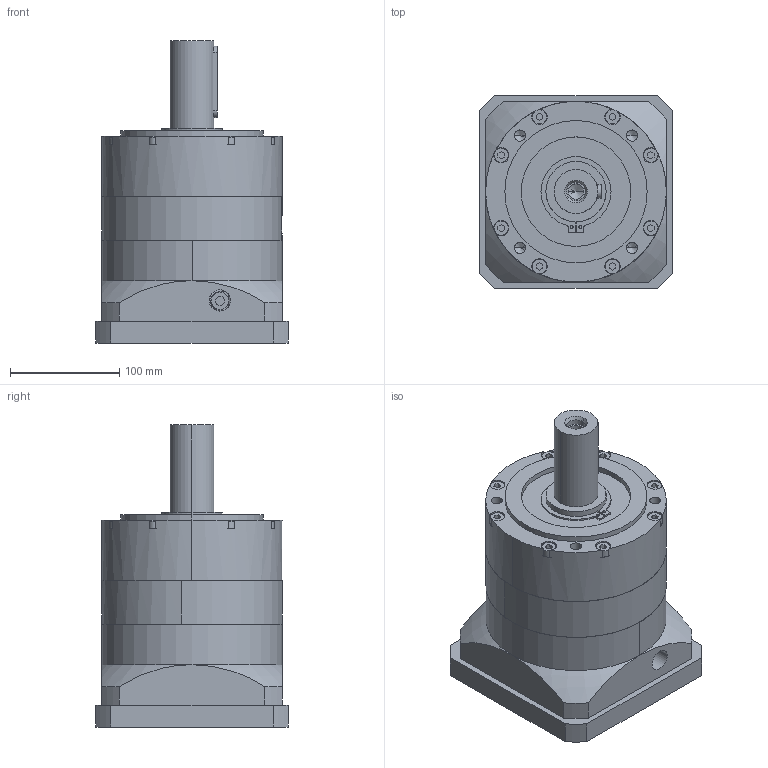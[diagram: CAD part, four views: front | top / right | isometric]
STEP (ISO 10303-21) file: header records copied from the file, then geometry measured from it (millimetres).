
FILE_DESCRIPTION (( 'STEP AP203' ), '1' );
FILE_NAME ('PLE160-L1-35-114.3-200.STEP', '2022-07-04T08:37:30', ( 'Windows User' ), ( 'P R C' ), 'SwSTEP 2.0', 'SolidWorks 2016', '' );
FILE_SCHEMA (( 'CONFIG_CONTROL_DESIGN' ));
Length unit declared in the file: millimetre
Products named in the file (8): GB／T276-94深沟球轴承6011-2RZ; PLE160帣釱; PLE160蟀諉啣_2; PLE160-L1-35-114.3-200; GB／T70．1-2000内六角圆柱头螺钉M10×35; PLE160 κｳﾝﾈｦ_ﾒｻｼｶﾄﾚｳﾝﾈｦ; PLE160奻屳唳; 邧埴瑩 12x8x65
Assembly tree (8 placements, depth 2):
  PLE160-L1-35-114.3-200
    GB／T70．1-2000内六角圆柱头螺钉M10×35  x2
    PLE160 κｳﾝﾈｦ_ﾒｻｼｶﾄﾚｳﾝﾈｦ
    PLE160奻屳唳
    邧埴瑩 12x8x65
    GB／T276-94深沟球轴承6011-2RZ
    PLE160帣釱
    PLE160蟀諉啣_2
Bounding box: 176 x 176 x 276 mm (x, y, z)
Volume: 3884574.3 mm3; surface area: 438121.3 mm2
Topology: 8 solids, 16 shells, 1196 faces, 3233 edges, 2124 vertices
Faces by surface type: plane 634, cylinder 236, bspline 159, sphere 83, torus 56, cone 28
Entity records: 48074 total; most frequent: CARTESIAN_POINT 18869, ORIENTED_EDGE 6232, DIRECTION 5337, EDGE_CURVE 3116, VERTEX_POINT 2062, AXIS2_PLACEMENT_3D 1878, LINE 1581, VECTOR 1581
